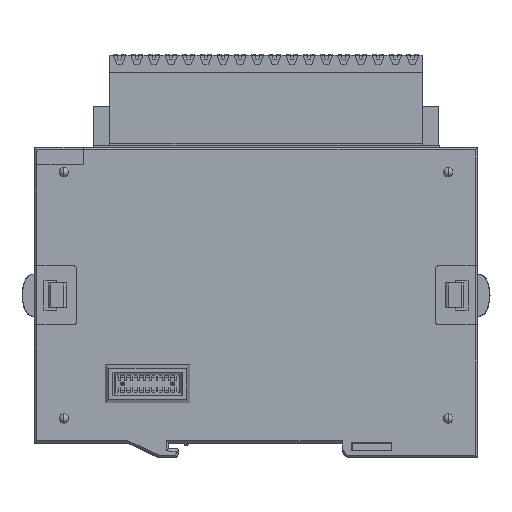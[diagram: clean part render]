
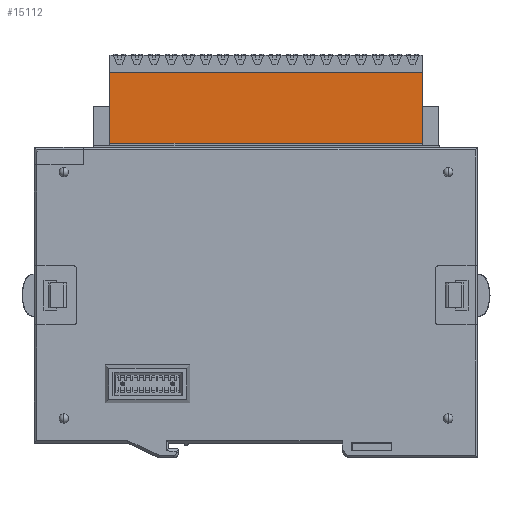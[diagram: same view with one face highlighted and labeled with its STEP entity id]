
A CAD part, left-side view. The second image highlights one B-rep face of the part: STEP entity #15112.
In plain terms, the highlighted planar face has unit normal (-1, 0, 0).
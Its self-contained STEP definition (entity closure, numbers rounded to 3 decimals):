
#1926 = VECTOR ( 'NONE', #84467, 1000. ) ;
#7909 = VECTOR ( 'NONE', #74345, 1000. ) ;
#8629 = DIRECTION ( 'NONE',  ( 0., 0., 1. ) ) ;
#9191 = LINE ( 'NONE', #42866, #73607 ) ;
#11927 = CARTESIAN_POINT ( 'NONE',  ( -7.5, 5.615, -63.4 ) ) ;
#15112 = ADVANCED_FACE ( 'NONE', ( #86284 ), #144948, .T. ) ;
#15622 = EDGE_CURVE ( 'NONE', #105536, #73900, #9191, .T. ) ;
#18781 = EDGE_CURVE ( 'NONE', #134095, #38303, #61909, .T. ) ;
#31373 = CARTESIAN_POINT ( 'NONE',  ( -7.5, 5.615, -63.4 ) ) ;
#32120 = EDGE_CURVE ( 'NONE', #73900, #38303, #115335, .T. ) ;
#38303 = VERTEX_POINT ( 'NONE', #87047 ) ;
#38637 = EDGE_LOOP ( 'NONE', ( #127782, #56638, #76701, #54369 ) ) ;
#41114 = AXIS2_PLACEMENT_3D ( 'NONE', #97302, #143497, #8629 ) ;
#42866 = CARTESIAN_POINT ( 'NONE',  ( -7.5, -9.175, 0. ) ) ;
#43605 = DIRECTION ( 'NONE',  ( 0., -1., 0. ) ) ;
#54369 = ORIENTED_EDGE ( 'NONE', *, *, #15622, .F. ) ;
#56638 = ORIENTED_EDGE ( 'NONE', *, *, #18781, .T. ) ;
#59607 = CARTESIAN_POINT ( 'NONE',  ( -7.5, -8.675, 3.3 ) ) ;
#61909 = LINE ( 'NONE', #106641, #7909 ) ;
#66787 = CARTESIAN_POINT ( 'NONE',  ( -7.5, 5.615, 0. ) ) ;
#73607 = VECTOR ( 'NONE', #43605, 1000. ) ;
#73900 = VERTEX_POINT ( 'NONE', #116168 ) ;
#74345 = DIRECTION ( 'NONE',  ( 0., -1., 0. ) ) ;
#76701 = ORIENTED_EDGE ( 'NONE', *, *, #32120, .F. ) ;
#84467 = DIRECTION ( 'NONE',  ( 0., 0., -1. ) ) ;
#86284 = FACE_OUTER_BOUND ( 'NONE', #38637, .T. ) ;
#87047 = CARTESIAN_POINT ( 'NONE',  ( -7.5, -8.675, -63.4 ) ) ;
#97302 = CARTESIAN_POINT ( 'NONE',  ( -7.5, -9.175, -63.4 ) ) ;
#105536 = VERTEX_POINT ( 'NONE', #66787 ) ;
#106641 = CARTESIAN_POINT ( 'NONE',  ( -7.5, -9.175, -63.4 ) ) ;
#113051 = DIRECTION ( 'NONE',  ( 0., 0., 1. ) ) ;
#115335 = LINE ( 'NONE', #59607, #1926 ) ;
#116168 = CARTESIAN_POINT ( 'NONE',  ( -7.5, -8.675, 0. ) ) ;
#122618 = LINE ( 'NONE', #11927, #136745 ) ;
#127782 = ORIENTED_EDGE ( 'NONE', *, *, #129936, .F. ) ;
#129936 = EDGE_CURVE ( 'NONE', #134095, #105536, #122618, .T. ) ;
#134095 = VERTEX_POINT ( 'NONE', #31373 ) ;
#136745 = VECTOR ( 'NONE', #113051, 1000. ) ;
#143497 = DIRECTION ( 'NONE',  ( -1., 0., 0. ) ) ;
#144948 = PLANE ( 'NONE',  #41114 ) ;
